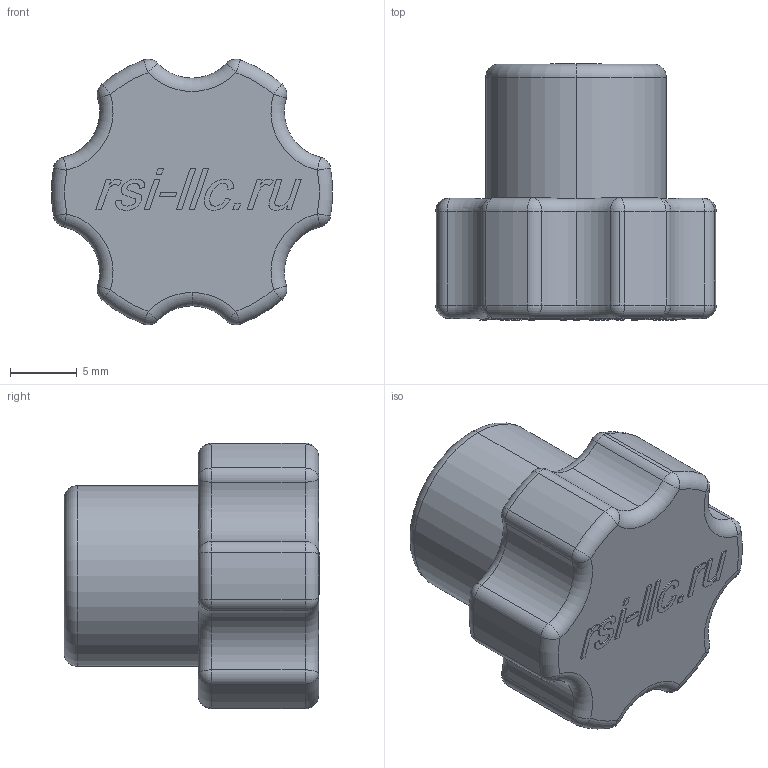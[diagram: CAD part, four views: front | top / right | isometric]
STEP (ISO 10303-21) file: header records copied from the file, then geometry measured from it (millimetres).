
FILE_DESCRIPTION (( 'STEP AP214' ), '1' );
FILE_NAME ('D21M6.STEP', '2020-10-13T05:28:54', ( '' ), ( '' ), 'SwSTEP 2.0', 'SolidWorks 2018', '' );
FILE_SCHEMA (( 'AUTOMOTIVE_DESIGN' ));
Length unit declared in the file: millimetre
Products named in the file (1): D21M6
Bounding box: 20.97 x 19.1 x 19.83 mm (x, y, z)
Volume: 3210.8 mm3; surface area: 2521 mm2
Topology: 1 solids, 1 shells, 235 faces, 589 edges, 348 vertices
Faces by surface type: plane 83, cylinder 47, torus 36, bspline 36, sphere 24, cone 9
Entity records: 11162 total; most frequent: CARTESIAN_POINT 4646, ORIENTED_EDGE 1130, DIRECTION 1033, EDGE_CURVE 565, AXIS2_PLACEMENT_3D 389, VERTEX_POINT 348, VECTOR 255, LINE 255
